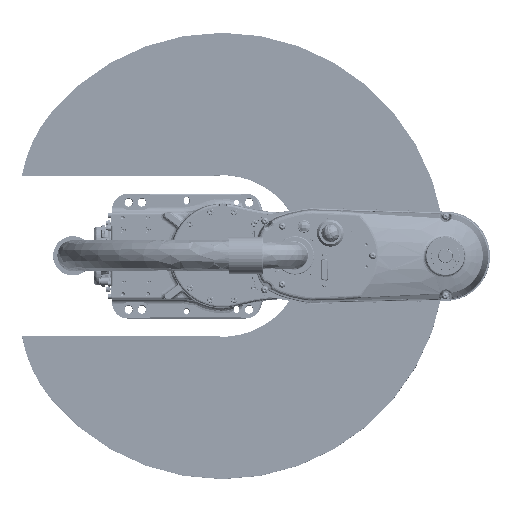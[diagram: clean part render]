
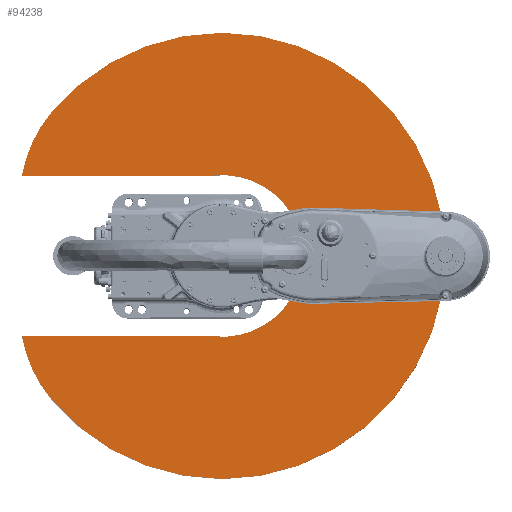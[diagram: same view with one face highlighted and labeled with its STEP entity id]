
A CAD part, top view. The second image highlights one B-rep face of the part: STEP entity #94238.
In plain terms, the highlighted planar face has unit normal (0, 0, 1) as drawn and (0, -1, 0) by its records, which use the part's own axes.
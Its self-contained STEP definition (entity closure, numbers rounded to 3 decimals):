
#4409 = CARTESIAN_POINT ( 'NONE',  ( 0., 0., 0. ) ) ;
#14622 = DIRECTION ( 'NONE',  ( 0., 0., -1. ) ) ;
#18509 = AXIS2_PLACEMENT_3D ( 'NONE', #4409, #246465, #145219 ) ;
#19040 = DIRECTION ( 'NONE',  ( 0., 1., 0. ) ) ;
#23497 = CARTESIAN_POINT ( 'NONE',  ( 0., 0., -250. ) ) ;
#31303 = VERTEX_POINT ( 'NONE', #120415 ) ;
#48452 = ORIENTED_EDGE ( 'NONE', *, *, #167871, .F. ) ;
#48470 = CARTESIAN_POINT ( 'NONE',  ( 90., 0., 11.247 ) ) ;
#54988 = CARTESIAN_POINT ( 'NONE',  ( 160.697, 0., 191.511 ) ) ;
#60151 = FACE_OUTER_BOUND ( 'NONE', #61938, .T. ) ;
#61938 = EDGE_LOOP ( 'NONE', ( #71413, #73864, #48452, #152114, #64632, #213219, #93446, #245756 ) ) ;
#64632 = ORIENTED_EDGE ( 'NONE', *, *, #158061, .F. ) ;
#67792 = VERTEX_POINT ( 'NONE', #99421 ) ;
#71413 = ORIENTED_EDGE ( 'NONE', *, *, #79839, .T. ) ;
#73864 = ORIENTED_EDGE ( 'NONE', *, *, #206900, .F. ) ;
#74918 = EDGE_CURVE ( 'NONE', #151998, #134467, #82480, .T. ) ;
#78000 = CARTESIAN_POINT ( 'NONE',  ( 0., 0., 0. ) ) ;
#79839 = EDGE_CURVE ( 'NONE', #169175, #31303, #117950, .T. ) ;
#80400 = EDGE_CURVE ( 'NONE', #67792, #106329, #101815, .T. ) ;
#80575 = CIRCLE ( 'NONE', #238777, 250. ) ;
#82480 = CIRCLE ( 'NONE', #180779, 250. ) ;
#86010 = AXIS2_PLACEMENT_3D ( 'NONE', #152177, #232314, #92364 ) ;
#91423 = CARTESIAN_POINT ( 'NONE',  ( -64.279, 0., 76.604 ) ) ;
#92364 = DIRECTION ( 'NONE',  ( 0., 0., -1. ) ) ;
#93151 = DIRECTION ( 'NONE',  ( 0., 0., -1. ) ) ;
#93446 = ORIENTED_EDGE ( 'NONE', *, *, #256798, .T. ) ;
#94238 = ADVANCED_FACE ( 'NONE', ( #60151 ), #257575, .F. ) ;
#99160 = DIRECTION ( 'NONE',  ( 0., 0., -1. ) ) ;
#99421 = CARTESIAN_POINT ( 'NONE',  ( 90., 0., 224.383 ) ) ;
#101815 = LINE ( 'NONE', #204641, #227896 ) ;
#106329 = VERTEX_POINT ( 'NONE', #48470 ) ;
#115452 = CARTESIAN_POINT ( 'NONE',  ( -90., 0., 11.247 ) ) ;
#117950 = LINE ( 'NONE', #194575, #203190 ) ;
#120415 = CARTESIAN_POINT ( 'NONE',  ( -90., 0., 224.383 ) ) ;
#122196 = AXIS2_PLACEMENT_3D ( 'NONE', #152913, #19040, #99160 ) ;
#133467 = CARTESIAN_POINT ( 'NONE',  ( 0., 0., 0. ) ) ;
#134467 = VERTEX_POINT ( 'NONE', #23497 ) ;
#145219 = DIRECTION ( 'NONE',  ( 0., 0., -1. ) ) ;
#151998 = VERTEX_POINT ( 'NONE', #54988 ) ;
#152114 = ORIENTED_EDGE ( 'NONE', *, *, #74918, .F. ) ;
#152177 = CARTESIAN_POINT ( 'NONE',  ( 0., 0., 0. ) ) ;
#152913 = CARTESIAN_POINT ( 'NONE',  ( 64.279, 0., 76.604 ) ) ;
#158061 = EDGE_CURVE ( 'NONE', #67792, #151998, #180982, .T. ) ;
#165518 = CIRCLE ( 'NONE', #219481, 150. ) ;
#167871 = EDGE_CURVE ( 'NONE', #134467, #222434, #80575, .T. ) ;
#169175 = VERTEX_POINT ( 'NONE', #115452 ) ;
#171181 = VERTEX_POINT ( 'NONE', #197960 ) ;
#173238 = CARTESIAN_POINT ( 'NONE',  ( 0., 0., 0. ) ) ;
#180779 = AXIS2_PLACEMENT_3D ( 'NONE', #173238, #254153, #233935 ) ;
#180982 = CIRCLE ( 'NONE', #122196, 150. ) ;
#182679 = DIRECTION ( 'NONE',  ( 0., 0., -1. ) ) ;
#188495 = AXIS2_PLACEMENT_3D ( 'NONE', #78000, #259322, #200413 ) ;
#194279 = DIRECTION ( 'NONE',  ( 0., 1., 0. ) ) ;
#194575 = CARTESIAN_POINT ( 'NONE',  ( -90., 0., 11.247 ) ) ;
#197960 = CARTESIAN_POINT ( 'NONE',  ( 0., 0., -90.7 ) ) ;
#200413 = DIRECTION ( 'NONE',  ( 0., 0., 1. ) ) ;
#203190 = VECTOR ( 'NONE', #235019, 1000. ) ;
#204641 = CARTESIAN_POINT ( 'NONE',  ( 90., 0., 11.247 ) ) ;
#206900 = EDGE_CURVE ( 'NONE', #222434, #31303, #165518, .T. ) ;
#213219 = ORIENTED_EDGE ( 'NONE', *, *, #80400, .T. ) ;
#218624 = CARTESIAN_POINT ( 'NONE',  ( -160.697, 0., 191.511 ) ) ;
#219481 = AXIS2_PLACEMENT_3D ( 'NONE', #91423, #231416, #93151 ) ;
#222434 = VERTEX_POINT ( 'NONE', #218624 ) ;
#227896 = VECTOR ( 'NONE', #182679, 1000. ) ;
#231416 = DIRECTION ( 'NONE',  ( 0., 1., 0. ) ) ;
#232314 = DIRECTION ( 'NONE',  ( 0., 1., 0. ) ) ;
#233935 = DIRECTION ( 'NONE',  ( 0., 0., -1. ) ) ;
#235019 = DIRECTION ( 'NONE',  ( 0., 0., 1. ) ) ;
#238640 = CIRCLE ( 'NONE', #86010, 90.7 ) ;
#238777 = AXIS2_PLACEMENT_3D ( 'NONE', #133467, #194279, #14622 ) ;
#245756 = ORIENTED_EDGE ( 'NONE', *, *, #249730, .T. ) ;
#246465 = DIRECTION ( 'NONE',  ( 0., 1., 0. ) ) ;
#247194 = CIRCLE ( 'NONE', #18509, 90.7 ) ;
#249730 = EDGE_CURVE ( 'NONE', #171181, #169175, #238640, .T. ) ;
#254153 = DIRECTION ( 'NONE',  ( 0., 1., 0. ) ) ;
#256798 = EDGE_CURVE ( 'NONE', #106329, #171181, #247194, .T. ) ;
#257575 = PLANE ( 'NONE',  #188495 ) ;
#259322 = DIRECTION ( 'NONE',  ( 0., 1., 0. ) ) ;
